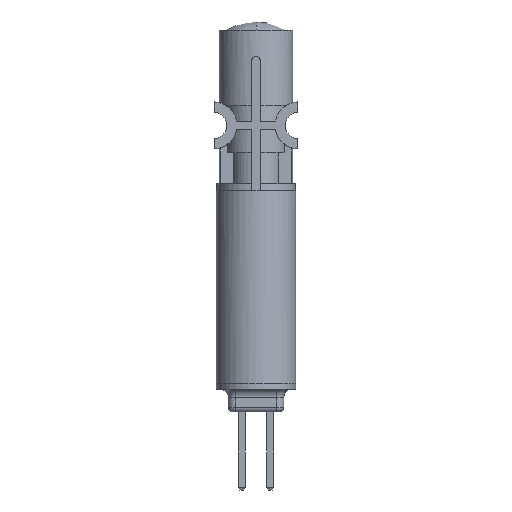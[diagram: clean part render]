
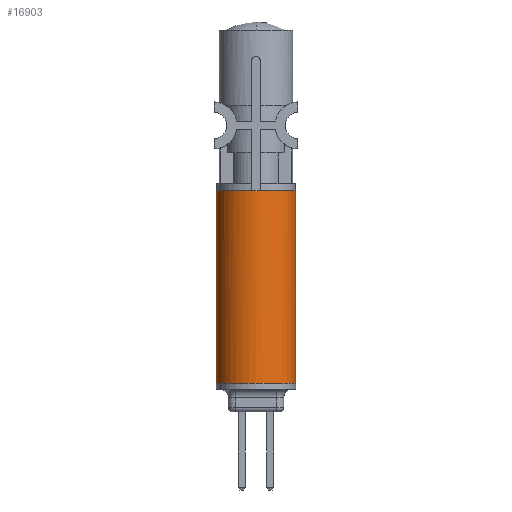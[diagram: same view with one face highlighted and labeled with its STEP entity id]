
A CAD part, front view. The second image highlights one B-rep face of the part: STEP entity #16903.
In plain terms, the highlighted cylindrical face has radius 3.581 mm (diameter 7.163 mm), a partial arc.
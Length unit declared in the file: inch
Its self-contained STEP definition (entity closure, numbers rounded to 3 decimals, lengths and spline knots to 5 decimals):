
#204 = DIRECTION ( 'NONE',  ( -1., 0., 0. ) ) ;
#638 = CARTESIAN_POINT ( 'NONE',  ( -0.141, 0., -0.566 ) ) ;
#696 = CIRCLE ( 'NONE', #34624, 0.141 ) ;
#1707 = DIRECTION ( 'NONE',  ( -1., 0., 0. ) ) ;
#1885 = CARTESIAN_POINT ( 'NONE',  ( 0., 0., -0.566 ) ) ;
#2130 = ORIENTED_EDGE ( 'NONE', *, *, #2976, .T. ) ;
#2668 = DIRECTION ( 'NONE',  ( 0., 0., 1. ) ) ;
#2976 = EDGE_CURVE ( 'NONE', #35770, #35827, #696, .T. ) ;
#3115 = CARTESIAN_POINT ( 'NONE',  ( 0., 0., -0.566 ) ) ;
#3236 = ORIENTED_EDGE ( 'NONE', *, *, #27909, .T. ) ;
#3937 = ORIENTED_EDGE ( 'NONE', *, *, #31133, .T. ) ;
#4002 = DIRECTION ( 'NONE',  ( 0., 0., 1. ) ) ;
#5597 = ORIENTED_EDGE ( 'NONE', *, *, #11835, .F. ) ;
#6032 = VERTEX_POINT ( 'NONE', #9670 ) ;
#6456 = DIRECTION ( 'NONE',  ( 0., 0., -1. ) ) ;
#6463 = AXIS2_PLACEMENT_3D ( 'NONE', #1885, #24366, #14598 ) ;
#8020 = FACE_OUTER_BOUND ( 'NONE', #13362, .T. ) ;
#8487 = ORIENTED_EDGE ( 'NONE', *, *, #25030, .F. ) ;
#8893 = LINE ( 'NONE', #40824, #17292 ) ;
#8998 = DIRECTION ( 'NONE',  ( 0., 0., -1. ) ) ;
#9670 = CARTESIAN_POINT ( 'NONE',  ( -0.141, 0., -1.245 ) ) ;
#10286 = LINE ( 'NONE', #13003, #39669 ) ;
#10624 = CARTESIAN_POINT ( 'NONE',  ( -0.015, -0.1402, -0.566 ) ) ;
#11279 = VERTEX_POINT ( 'NONE', #20994 ) ;
#11835 = EDGE_CURVE ( 'NONE', #6032, #35827, #10286, .T. ) ;
#12013 = CYLINDRICAL_SURFACE ( 'NONE', #39994, 0.141 ) ;
#12759 = CARTESIAN_POINT ( 'NONE',  ( 0.015, -0.1402, -0.566 ) ) ;
#13003 = CARTESIAN_POINT ( 'NONE',  ( -0.141, 0., -1.266 ) ) ;
#13362 = EDGE_LOOP ( 'NONE', ( #5597, #8487, #3236, #20558, #3937, #2130 ) ) ;
#14598 = DIRECTION ( 'NONE',  ( -1., 0., 0. ) ) ;
#16903 = ADVANCED_FACE ( 'NONE', ( #8020 ), #12013, .T. ) ;
#17292 = VECTOR ( 'NONE', #2668, 39.37008 ) ;
#17419 = DIRECTION ( 'NONE',  ( 0., 0., 1. ) ) ;
#19262 = VERTEX_POINT ( 'NONE', #39148 ) ;
#20558 = ORIENTED_EDGE ( 'NONE', *, *, #34477, .T. ) ;
#20994 = CARTESIAN_POINT ( 'NONE',  ( 0.141, 0., -1.245 ) ) ;
#21634 = CIRCLE ( 'NONE', #25600, 0.141 ) ;
#21744 = DIRECTION ( 'NONE',  ( -1., 0., 0. ) ) ;
#24366 = DIRECTION ( 'NONE',  ( 0., 0., -1. ) ) ;
#24763 = CIRCLE ( 'NONE', #38819, 0.141 ) ;
#25030 = EDGE_CURVE ( 'NONE', #11279, #6032, #21634, .T. ) ;
#25600 = AXIS2_PLACEMENT_3D ( 'NONE', #40275, #39457, #1707 ) ;
#27909 = EDGE_CURVE ( 'NONE', #11279, #19262, #8893, .T. ) ;
#31133 = EDGE_CURVE ( 'NONE', #34260, #35770, #24763, .T. ) ;
#34260 = VERTEX_POINT ( 'NONE', #12759 ) ;
#34477 = EDGE_CURVE ( 'NONE', #19262, #34260, #39783, .T. ) ;
#34624 = AXIS2_PLACEMENT_3D ( 'NONE', #37627, #8998, #21744 ) ;
#35770 = VERTEX_POINT ( 'NONE', #10624 ) ;
#35827 = VERTEX_POINT ( 'NONE', #638 ) ;
#37061 = DIRECTION ( 'NONE',  ( 1., 0., 0. ) ) ;
#37280 = CARTESIAN_POINT ( 'NONE',  ( 0., 0., -1.266 ) ) ;
#37627 = CARTESIAN_POINT ( 'NONE',  ( 0., 0., -0.566 ) ) ;
#38819 = AXIS2_PLACEMENT_3D ( 'NONE', #3115, #6456, #204 ) ;
#39148 = CARTESIAN_POINT ( 'NONE',  ( 0.141, 0., -0.566 ) ) ;
#39457 = DIRECTION ( 'NONE',  ( 0., 0., -1. ) ) ;
#39669 = VECTOR ( 'NONE', #4002, 39.37008 ) ;
#39783 = CIRCLE ( 'NONE', #6463, 0.141 ) ;
#39994 = AXIS2_PLACEMENT_3D ( 'NONE', #37280, #17419, #37061 ) ;
#40275 = CARTESIAN_POINT ( 'NONE',  ( 0., 0., -1.245 ) ) ;
#40824 = CARTESIAN_POINT ( 'NONE',  ( 0.141, 0., -1.266 ) ) ;
